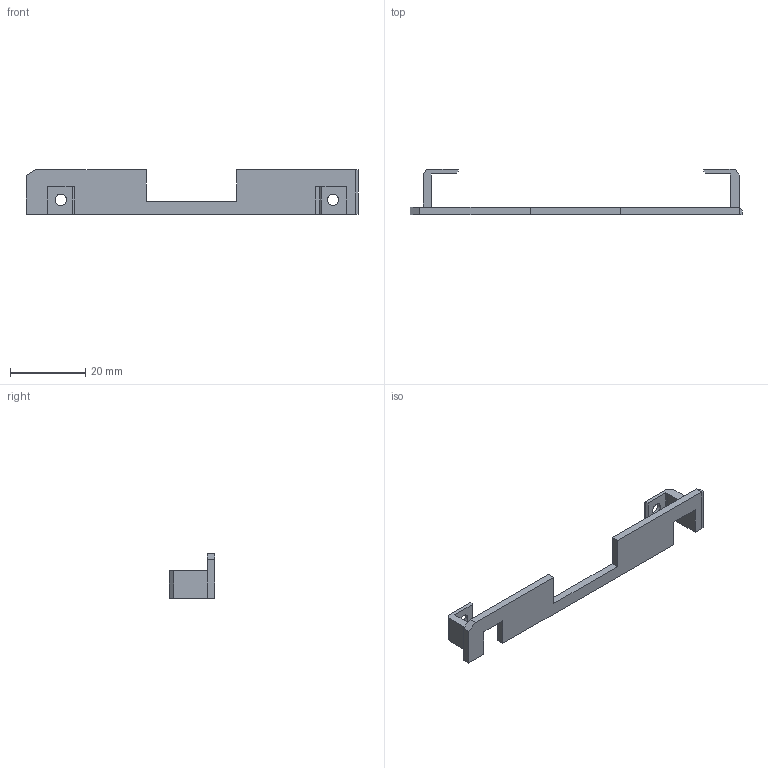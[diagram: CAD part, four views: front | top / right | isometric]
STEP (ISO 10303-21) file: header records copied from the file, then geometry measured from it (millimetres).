
FILE_DESCRIPTION((''),'2;1');
FILE_NAME('M2-1','2018-09-13T',('Hungpo_Ouyang'),(''),'PRO/ENGINEER BY PARAMETRIC TECHNOLOGY CORPORATION, 2015240','PRO/ENGINEER BY PARAMETRIC TECHNOLOGY CORPORATION, 2015240','');
FILE_SCHEMA(('CONFIG_CONTROL_DESIGN'));
Length unit declared in the file: millimetre
Products named in the file (1): M2-1
Bounding box: 88.29 x 12.02 x 11.92 mm (x, y, z)
Volume: 1899 mm3; surface area: 2564.3 mm2
Topology: 1 solids, 1 shells, 46 faces, 124 edges, 80 vertices
Faces by surface type: plane 42, cylinder 4
Entity records: 1458 total; most frequent: CARTESIAN_POINT 250, ORIENTED_EDGE 248, DIRECTION 224, EDGE_CURVE 124, VECTOR 116, LINE 116, VERTEX_POINT 80, AXIS2_PLACEMENT_3D 54
